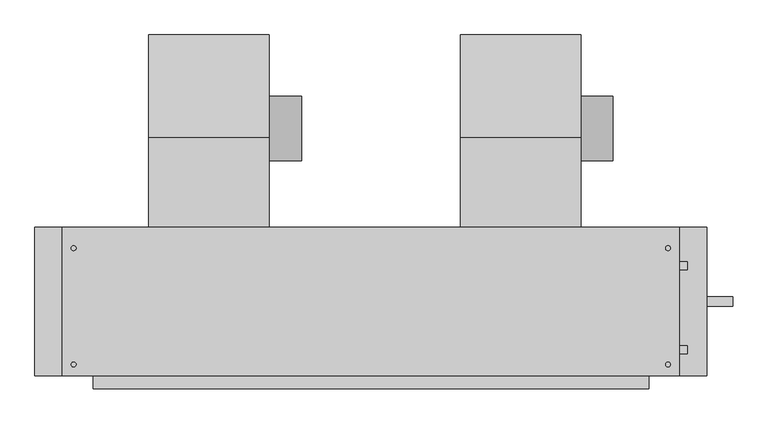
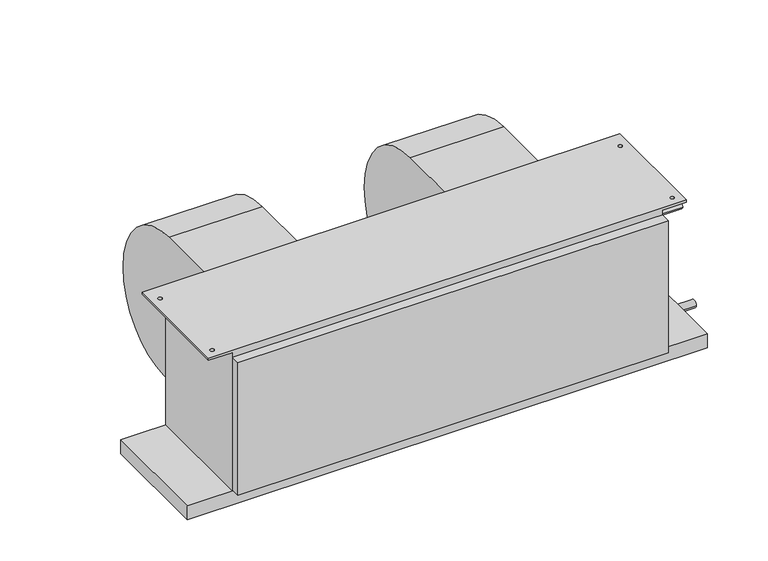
"""IFC4 building model written with IfcOpenShell, lengths in millimetres: proxy geometry, Concealed_High_Capacity_Horizontal_Fan_Coil_Unit_-_42DAA_-_CARRIER_-_2-Pipe_Cool-EHeat_RH_2022 : Size 18 - 277v/60Hz/1Ph - 6 Row 12.0kW."""

import ifcopenshell
import ifcopenshell.guid

model = None  # the IFC model being written
_history = None  # IfcOwnerHistory: only IFC2X3 demands one
_inside = {}  # id of a spatial element -> (the spatial element, [elements in it])
_under = {}  # id of a project, library or spatial element -> (it, [spatial elements below it])
_declared = {}  # id of a project -> (the project, [libraries it declares])
_typed = {}  # id of a type object -> (the type object, [elements of that type])
_made_of = {}  # id of a material, layer set ... -> (it, [elements and type objects made of it])


def new_model(schema):
    """Start an empty IFC model of exactly this schema.

    Asked for "IFC4X3", IfcOpenShell would pick the latest addendum, in which some entities
    have other attributes; the version numbers below select the first issue.
    IFC2X3 requires an IfcOwnerHistory on every rooted entity: one is made here for all.
    """
    global model, _history
    if schema == "IFC4X3":
        model = ifcopenshell.file(schema_version=(4, 3, 0, 0))
    else:
        model = ifcopenshell.file(schema=schema)
    _inside.clear()
    _under.clear()
    _declared.clear()
    _typed.clear()
    _made_of.clear()
    _history = None
    if model.schema == "IFC2X3":
        org = make("IfcOrganization", Name="unknown")
        user = make(
            "IfcPersonAndOrganization",
            ThePerson=make("IfcPerson", FamilyName="unknown"),
            TheOrganization=org,
        )
        app = make(
            "IfcApplication",
            ApplicationDeveloper=org,
            Version="unknown",
            ApplicationFullName="unknown",
            ApplicationIdentifier="unknown",
        )
        _history = make(
            "IfcOwnerHistory",
            OwningUser=user,
            OwningApplication=app,
            ChangeAction="ADDED",
            CreationDate=0,
        )
    return model


def make(cls, **values):
    """One entity of the class cls with the attributes given. An attribute that is None is left unset."""
    return model.create_entity(
        cls, **{name: value for name, value in values.items() if value is not None}
    )


def rooted(cls, **values):
    """An entity with a GlobalId (a new one), such as an element, a storey or a relation."""
    return make(cls, GlobalId=ifcopenshell.guid.new(), OwnerHistory=_history, **values)


def si_unit(unit_type, name, prefix=None):
    """IfcSIUnit, for example si_unit("LENGTHUNIT", "METRE", prefix="MILLI")."""
    return make("IfcSIUnit", UnitType=unit_type, Prefix=prefix, Name=name)


def assignment(units):
    """IfcUnitAssignment: the units of a project."""
    return None if units is None else make("IfcUnitAssignment", Units=units)


def point(xyz):
    """IfcCartesianPoint."""
    return None if xyz is None else make("IfcCartesianPoint", Coordinates=xyz)


def direction(xyz):
    """IfcDirection."""
    return None if xyz is None else make("IfcDirection", DirectionRatios=xyz)


def frame(location, z_axis=None, x_axis=None):
    """IfcAxis2Placement3D, a coordinate frame: its origin and axes. An axis left out is left unset."""
    return make(
        "IfcAxis2Placement3D",
        Location=point(location),
        Axis=direction(z_axis),
        RefDirection=direction(x_axis),
    )


def frame_2d(location, x_axis=None):
    """IfcAxis2Placement2D, a coordinate frame in the plane: its origin and x axis."""
    return make(
        "IfcAxis2Placement2D", Location=point(location), RefDirection=direction(x_axis)
    )


def origin():
    """The frame at (0, 0, 0) with its axes left unset."""
    return frame((0.0, 0.0, 0.0))


def place(relative_to, where):
    """IfcLocalPlacement: puts the frame where relative to a parent placement (None: the world)."""
    return make(
        "IfcLocalPlacement", PlacementRelTo=relative_to, RelativePlacement=where
    )


def context(
    kind, dimensions, precision=None, world=None, true_north=None, identifier=None
):
    """IfcGeometricRepresentationContext, for example the 3D "Model" context."""
    return make(
        "IfcGeometricRepresentationContext",
        ContextIdentifier=identifier,
        ContextType=kind,
        CoordinateSpaceDimension=dimensions,
        Precision=precision,
        WorldCoordinateSystem=world,
        TrueNorth=true_north,
    )


def project(units=None, contexts=None):
    """IfcProject with its units and contexts."""
    return rooted(
        "IfcProject",
        Name="project",
        RepresentationContexts=contexts,
        UnitsInContext=assignment(units),
    )


def spatial(cls, under=None, at=None, **own):
    """A site, building, storey or space (cls), placed at a placement, below another one or the project."""
    s = rooted(cls, ObjectPlacement=at, **own)
    if under is not None:
        _under.setdefault(under.id(), (under, []))[1].append(s)
    return s


def polyline(points):
    """IfcPolyline through the points."""
    return make("IfcPolyline", Points=[point(p) for p in points])


def circle_curve(where, radius):
    """IfcCircle in the frame where."""
    return make("IfcCircle", Position=where, Radius=radius)


def trimmed(basis, trim1, trim2, sense, master):
    """IfcTrimmedCurve: the piece of a basis curve between two trims."""
    return make(
        "IfcTrimmedCurve",
        BasisCurve=basis,
        Trim1=trim1,
        Trim2=trim2,
        SenseAgreement=sense,
        MasterRepresentation=master,
    )


def segment(curve, same_sense, transition):
    """IfcCompositeCurveSegment."""
    return make(
        "IfcCompositeCurveSegment",
        Transition=transition,
        SameSense=same_sense,
        ParentCurve=curve,
    )


def composite_curve(segments, self_intersect=None):
    """IfcCompositeCurve: segments joined end to end."""
    return make("IfcCompositeCurve", Segments=segments, SelfIntersect=self_intersect)


def outline(outer, holes=None, kind="AREA"):
    """IfcArbitraryClosedProfileDef: a profile drawn as a closed curve; with holes, ...WithVoids."""
    if holes is None:
        return make("IfcArbitraryClosedProfileDef", ProfileType=kind, OuterCurve=outer)
    return make(
        "IfcArbitraryProfileDefWithVoids",
        ProfileType=kind,
        OuterCurve=outer,
        InnerCurves=holes,
    )


def extrude(swept, where, along, depth):
    """IfcExtrudedAreaSolid: the profile swept, set in the frame where, extruded along a direction by depth."""
    return make(
        "IfcExtrudedAreaSolid",
        SweptArea=swept,
        Position=where,
        ExtrudedDirection=direction(along),
        Depth=depth,
    )


def shape(context_of_items, identifier, shape_type, items):
    """IfcShapeRepresentation: the items that make up one representation, for example the "Body"."""
    return make(
        "IfcShapeRepresentation",
        ContextOfItems=context_of_items,
        RepresentationIdentifier=identifier,
        RepresentationType=shape_type,
        Items=items,
    )


def source(mapping_origin, context_of_items, identifier, shape_type, items):
    """IfcRepresentationMap: a shape defined once, which mapped items show again and again."""
    return make(
        "IfcRepresentationMap",
        MappingOrigin=mapping_origin,
        MappedRepresentation=shape(context_of_items, identifier, shape_type, items),
    )


def transform(
    local_origin,
    x_axis=None,
    y_axis=None,
    z_axis=None,
    scale=None,
    scale2=None,
    scale3=None,
    uniform=True,
):
    """IfcCartesianTransformationOperator3D, or its non-uniform kind. x_axis, y_axis, z_axis: its Axis1, 2, 3."""
    if uniform:
        return make(
            "IfcCartesianTransformationOperator3D",
            Axis1=direction(x_axis),
            Axis2=direction(y_axis),
            LocalOrigin=point(local_origin),
            Scale=scale,
            Axis3=direction(z_axis),
        )
    return make(
        "IfcCartesianTransformationOperator3DnonUniform",
        Axis1=direction(x_axis),
        Axis2=direction(y_axis),
        LocalOrigin=point(local_origin),
        Scale=scale,
        Axis3=direction(z_axis),
        Scale2=scale2,
        Scale3=scale3,
    )


def mapped(mapping_source, mapping_target):
    """IfcMappedItem: shows the shape of a source again, moved by a transform."""
    return make(
        "IfcMappedItem", MappingSource=mapping_source, MappingTarget=mapping_target
    )


def made_of(thing, what):
    """Note that an element or type object is made of a material, layer set ...; save() writes the relation."""
    if what is not None:
        _made_of.setdefault(what.id(), (what, []))[1].append(thing)
    return thing


def element(
    cls,
    number,
    at=None,
    inside=None,
    cuts=None,
    type_object=None,
    material=None,
    context=None,
    identifier="Body",
    shape_type=None,
    held_by="IfcProductDefinitionShape",
    body=None,
    shapes=None,
    **own,
):
    """One element of the class cls, such as IfcWall. Its Tag is "e" and its number.

    at: its placement. inside: the storey or other place that contains it. cuts: it is an
    opening in that element (IfcRelVoidsElement). A single representation is given by context,
    identifier, shape_type and body (its items); several are given by shapes. held_by: the class
    of the entity that holds the representations. save() writes the other relations.
    """
    e = rooted(cls, Tag="e%d" % number, ObjectPlacement=at, **own)
    if body is not None:
        shapes = [shape(context, identifier, shape_type, body)]
    if shapes is not None:
        e.Representation = make(held_by, Representations=shapes)
    if inside is not None:
        _inside.setdefault(inside.id(), (inside, []))[1].append(e)
    if cuts is not None:
        rooted(
            "IfcRelVoidsElement", RelatingBuildingElement=cuts, RelatedOpeningElement=e
        )
    if type_object is not None:
        _typed.setdefault(type_object.id(), (type_object, []))[1].append(e)
    return made_of(e, material)


def aggregate(whole, parts):
    """IfcRelAggregates: a whole, such as a stair, and the parts it consists of."""
    return rooted("IfcRelAggregates", RelatingObject=whole, RelatedObjects=parts)


def save(model, path):
    """Write the relations noted so far, then the file.

    IfcRelAggregates (storeys below a building ...), IfcRelContainedInSpatialStructure (elements
    in a storey), IfcRelDefinesByType, IfcRelAssociatesMaterial and IfcRelDeclares: one each for
    every whole, place, type object, material and project.
    """
    for whole, parts in _under.values():
        aggregate(whole, parts)
    for where, things in _inside.values():
        rooted(
            "IfcRelContainedInSpatialStructure",
            RelatedElements=things,
            RelatingStructure=where,
        )
    for kind, things in _typed.values():
        rooted("IfcRelDefinesByType", RelatedObjects=things, RelatingType=kind)
    for what, things in _made_of.values():
        rooted("IfcRelAssociatesMaterial", RelatedObjects=things, RelatingMaterial=what)
    for by, libraries in _declared.values():
        rooted("IfcRelDeclares", RelatingContext=by, RelatedDefinitions=libraries)
    model.write(path)


def plane_surface(at):
    """IfcPlane: the flat surface through the origin of the frame at, square to its z axis."""
    return make("IfcPlane", Position=at)


def cylinder_surface(at, radius):
    """IfcCylindricalSurface: all points at the distance radius from the z axis of the frame at."""
    return make("IfcCylindricalSurface", Position=at, Radius=radius)


def revolved_surface(curve, axis_point, axis_direction):
    """IfcSurfaceOfRevolution: the curve turned about the line through axis_point along axis_direction."""
    return make(
        "IfcSurfaceOfRevolution",
        SweptCurve=make("IfcArbitraryOpenProfileDef", ProfileType="CURVE", Curve=curve),
        AxisPosition=make("IfcAxis1Placement", Location=point(axis_point), Axis=direction(axis_direction)),
    )


def advanced_brep(points, edges, surfaces, faces):
    """IfcAdvancedBrep: a solid bounded by faces that lie on surfaces and meet in shared edges.

    An edge is (start, end): straight between two places in points (the first is 0);
    or (start, end, curve); or (start, end, curve, False) where it runs against its curve.
    A face is (place in surfaces, loops), or (place, loops, False) where it looks against
    its surface's normal. A loop lists edges by number (the first is 1), with a minus sign
    where the edge is run from its end to its start. The first loop is the outer one.
    """
    corners = [point(p) for p in points]
    vertices = [make("IfcVertexPoint", VertexGeometry=c) for c in corners]
    made = []
    for start, end, *more in edges:
        made.append(
            make(
                "IfcEdgeCurve",
                EdgeStart=vertices[start],
                EdgeEnd=vertices[end],
                EdgeGeometry=more[0] if more else make("IfcPolyline", Points=[corners[start], corners[end]]),
                SameSense=more[1] if len(more) > 1 else True,
            )
        )
    hull = []
    for where, loops, *sense in faces:
        bounds = []
        for j, loop in enumerate(loops):
            ring = [make("IfcOrientedEdge", EdgeElement=made[abs(k) - 1], Orientation=k > 0) for k in loop]
            bounds.append(
                make(
                    "IfcFaceOuterBound" if j == 0 else "IfcFaceBound",
                    Bound=make("IfcEdgeLoop", EdgeList=ring),
                    Orientation=True,
                )
            )
        hull.append(make("IfcAdvancedFace", Bounds=bounds, FaceSurface=surfaces[where], SameSense=sense[0] if sense else True))
    return make("IfcAdvancedBrep", Outer=make("IfcClosedShell", CfsFaces=hull))


def mechanical_equipment_83f86b39(model_context):
    return source(origin(), model_context, "Body", "SolidModel", [
        extrude(outline(composite_curve([segment(trimmed(circle_curve(frame_2d((102.0007598, -206.8897468)), 63.5), [point((165.5007598, -206.8897468))], [point((38.5007598, -206.8897468))], False, "CARTESIAN"), True, "CONTINUOUS"), segment(trimmed(circle_curve(frame_2d((102.0007598, -206.8897468)), 63.5), [point((38.5007598, -206.8897468))], [point((165.5007598, -206.8897468))], False, "CARTESIAN"), True, "CONTINUOUS")], self_intersect=False)), frame((-47.625, 0.0, 0.0), z_axis=(1.0, 0.0, 0.0), x_axis=(0.0, 1.0, 0.0)), (0.0, 0.0, 1.0), 63.5),
        advanced_brep(
        [(-284.099, 285.5155957, -222.029602), (-284.099, 104.6226, -403.64664), (-284.099, -50.9016, -277.10638), (-284.099, -92.075, -277.10638), (-284.099, -92.075, -19.05), (-284.099, 83.0080093, -19.05), (-47.625, 285.5155957, -222.029602), (-47.625, 83.0080093, -19.05), (-47.625, -92.075, -19.05), (-47.625, -92.075, -277.10638), (-47.625, -50.9016, -277.10638), (-47.625, 104.622599, -403.6457839)],
        [
            (0, 1, circle_curve(frame((-284.099, 104.44226, -222.57258), z_axis=(-1.0, 0.0, 0.0), x_axis=(0.0, -1.0, 0.0)), 181.0741498)),
            (1, 2, circle_curve(frame((-284.099, 104.44226, -245.02364), z_axis=(-1.0, 0.0, 0.0), x_axis=(0.0, -1.0, 0.0)), 158.6222464)),
            (2, 3),
            (3, 4),
            (4, 5),
            (5, 0, circle_curve(frame((-284.099, 81.9912, -222.57258), z_axis=(-1.0, 0.0, 0.0), x_axis=(0.0, -1.0, 0.0)), 203.52512)),
            (6, 7, circle_curve(frame((-47.625, 81.9912, -222.57258), z_axis=(1.0, 0.0, 0.0), x_axis=(0.0, -1.0, 0.0)), 203.52512)),
            (7, 8),
            (8, 9),
            (9, 10),
            (10, 11, circle_curve(frame((-47.625, 104.44226, -245.02364), z_axis=(1.0, 0.0, 0.0), x_axis=(0.0, -1.0, 0.0)), 158.6222464)),
            (11, 6, circle_curve(frame((-47.625, 104.44226, -222.57258), z_axis=(1.0, 0.0, 0.0), x_axis=(0.0, -1.0, 0.0)), 181.0741498)),
            (0, 6),
            (11, 1),
            (10, 2),
            (9, 3),
            (8, 4),
            (7, 5),
        ],
        [
            plane_surface(frame((-284.099, -76.6318898, -222.57258), z_axis=(-1.0, 0.0, 0.0), x_axis=(0.0, 0.0, 1.0))),
            plane_surface(frame((-47.625, -76.6318898, -222.57258), z_axis=(1.0, 0.0, 0.0), x_axis=(0.0, 0.0, -1.0))),
            cylinder_surface(frame((-47.625, 104.44226, -222.57258), z_axis=(-1.0, 0.0, 0.0), x_axis=(0.0, -1.0, 0.0)), 181.0741498),
            cylinder_surface(frame((-47.625, 104.44226, -245.02364), z_axis=(-1.0, 0.0, 0.0), x_axis=(0.0, -1.0, 0.0)), 158.6222464),
            plane_surface(frame((-284.099, -50.9016, -277.10638), z_axis=(0.0, 0.0, -1.0), x_axis=(1.0, 0.0, 0.0))),
            plane_surface(frame((-284.099, -92.075, -277.10638), z_axis=(0.0, -1.0, 0.0), x_axis=(1.0, 0.0, 0.0))),
            plane_surface(frame((-284.099, -92.075, -19.05), z_axis=(0.0, 0.0, 1.0), x_axis=(1.0, 0.0, 0.0))),
            cylinder_surface(frame((-47.625, 81.9912, -222.57258), z_axis=(-1.0, 0.0, 0.0), x_axis=(0.0, -1.0, 0.0)), 203.52512),
        ],
        [
            (0, [[1, 2, 3, 4, 5, 6]]),
            (1, [[7, 8, 9, 10, 11, 12]]),
            (2, [[-1, 13, -12, 14]]),
            (3, [[-2, -14, -11, 15]]),
            (4, [[-3, -15, -10, 16]]),
            (5, [[-4, -16, -9, 17]]),
            (6, [[-5, -17, -8, 18]]),
            (7, [[-6, -18, -7, -13]]),
        ],
    ),
        extrude(outline(composite_curve([segment(trimmed(circle_curve(frame_2d((102.0007598, -206.8897468)), 63.5), [point((165.5007598, -206.8897468))], [point((38.5007598, -206.8897468))], False, "CARTESIAN"), True, "CONTINUOUS"), segment(trimmed(circle_curve(frame_2d((102.0007598, -206.8897468)), 63.5), [point((38.5007598, -206.8897468))], [point((165.5007598, -206.8897468))], False, "CARTESIAN"), True, "CONTINUOUS")], self_intersect=False)), frame((565.15, 0.0, 0.0), z_axis=(1.0, 0.0, 0.0), x_axis=(0.0, 1.0, 0.0)), (0.0, 0.0, 1.0), 63.5),
        advanced_brep(
        [(328.676, 285.5155957, -222.029602), (328.676, 104.6226, -403.64664), (328.676, -50.9016, -277.10638), (328.676, -92.075, -277.10638), (328.676, -92.075, -19.05), (328.676, 83.0080093, -19.05), (565.15, 285.5155957, -222.029602), (565.15, 83.0080093, -19.05), (565.15, -92.075, -19.05), (565.15, -92.075, -277.10638), (565.15, -50.9016, -277.10638), (565.15, 104.622599, -403.6457839)],
        [
            (0, 1, circle_curve(frame((328.676, 104.44226, -222.57258), z_axis=(-1.0, 0.0, 0.0), x_axis=(0.0, -1.0, 0.0)), 181.0741498)),
            (1, 2, circle_curve(frame((328.676, 104.44226, -245.02364), z_axis=(-1.0, 0.0, 0.0), x_axis=(0.0, -1.0, 0.0)), 158.6222464)),
            (2, 3),
            (3, 4),
            (4, 5),
            (5, 0, circle_curve(frame((328.676, 81.9912, -222.57258), z_axis=(-1.0, 0.0, 0.0), x_axis=(0.0, -1.0, 0.0)), 203.52512)),
            (6, 7, circle_curve(frame((565.15, 81.9912, -222.57258), z_axis=(1.0, 0.0, 0.0), x_axis=(0.0, -1.0, 0.0)), 203.52512)),
            (7, 8),
            (8, 9),
            (9, 10),
            (10, 11, circle_curve(frame((565.15, 104.44226, -245.02364), z_axis=(1.0, 0.0, 0.0), x_axis=(0.0, -1.0, 0.0)), 158.6222464)),
            (11, 6, circle_curve(frame((565.15, 104.44226, -222.57258), z_axis=(1.0, 0.0, 0.0), x_axis=(0.0, -1.0, 0.0)), 181.0741498)),
            (0, 6),
            (11, 1),
            (10, 2),
            (9, 3),
            (8, 4),
            (7, 5),
        ],
        [
            plane_surface(frame((328.676, -76.6318898, -222.57258), z_axis=(-1.0, 0.0, 0.0), x_axis=(0.0, 0.0, 1.0))),
            plane_surface(frame((565.15, -76.6318898, -222.57258), z_axis=(1.0, 0.0, 0.0), x_axis=(0.0, 0.0, -1.0))),
            cylinder_surface(frame((565.15, 104.44226, -222.57258), z_axis=(-1.0, 0.0, 0.0), x_axis=(0.0, -1.0, 0.0)), 181.0741498),
            cylinder_surface(frame((565.15, 104.44226, -245.02364), z_axis=(-1.0, 0.0, 0.0), x_axis=(0.0, -1.0, 0.0)), 158.6222464),
            plane_surface(frame((328.676, -50.9016, -277.10638), z_axis=(0.0, 0.0, -1.0), x_axis=(1.0, 0.0, 0.0))),
            plane_surface(frame((328.676, -92.075, -277.10638), z_axis=(0.0, -1.0, 0.0), x_axis=(1.0, 0.0, 0.0))),
            plane_surface(frame((328.676, -92.075, -19.05), z_axis=(0.0, 0.0, 1.0), x_axis=(1.0, 0.0, 0.0))),
            cylinder_surface(frame((565.15, 81.9912, -222.57258), z_axis=(-1.0, 0.0, 0.0), x_axis=(0.0, -1.0, 0.0)), 203.52512),
        ],
        [
            (0, [[1, 2, 3, 4, 5, 6]]),
            (1, [[7, 8, 9, 10, 11, 12]]),
            (2, [[-1, 13, -12, 14]]),
            (3, [[-2, -14, -11, 15]]),
            (4, [[-3, -15, -10, 16]]),
            (5, [[-4, -16, -9, 17]]),
            (6, [[-5, -17, -8, 18]]),
            (7, [[-6, -18, -7, -13]]),
        ],
    ),
        advanced_brep(
        [(698.5, -92.075, -377.825), (698.5, -384.175, -377.825), (-393.7, -384.175, -377.825), (-393.7, -92.075, -377.825), (-393.7, -384.175, -6.35), (-393.7, -92.075, -6.35), (698.5, -92.075, -6.35), (698.5, -384.175, -6.35), (758.825, -92.075, -6.35), (758.825, -384.175, -6.35), (731.8375, -133.35, -6.35), (741.3625, -133.35, -6.35), (731.8375, -361.95, -6.35), (741.3625, -361.95, -6.35), (-454.025, -92.075, -6.35), (-454.025, -384.175, -6.35), (-436.5625, -133.35, -6.35), (-427.0375, -133.35, -6.35), (-436.5625, -361.95, -6.35), (-427.0375, -361.95, -6.35), (758.825, -384.175, 0.0), (758.825, -92.075, 0.0), (-454.025, -92.075, 0.0), (-454.025, -384.175, 0.0), (-427.0375, -133.35, 0.0), (-436.5625, -133.35, 0.0), (-427.0375, -361.95, 0.0), (-436.5625, -361.95, 0.0), (741.3625, -133.35, 0.0), (731.8375, -133.35, 0.0), (741.3625, -361.95, 0.0), (731.8375, -361.95, 0.0)],
        [
            (0, 1),
            (1, 2),
            (2, 3),
            (3, 0),
            (2, 4),
            (4, 5),
            (5, 3),
            (0, 6),
            (6, 7),
            (7, 1),
            (8, 9),
            (9, 7),
            (6, 8),
            (10, 11, circle_curve(frame((736.6, -133.35, -6.35), z_axis=(0.0, 0.0, 1.0), x_axis=(1.0, 0.0, 0.0)), 4.7625)),
            (11, 10, circle_curve(frame((736.6, -133.35, -6.35), z_axis=(0.0, 0.0, 1.0), x_axis=(1.0, 0.0, 0.0)), 4.7625)),
            (12, 13, circle_curve(frame((736.6, -361.95, -6.35), z_axis=(0.0, 0.0, 1.0), x_axis=(1.0, 0.0, 0.0)), 4.7625)),
            (13, 12, circle_curve(frame((736.6, -361.95, -6.35), z_axis=(0.0, 0.0, 1.0), x_axis=(1.0, 0.0, 0.0)), 4.7625)),
            (14, 5),
            (4, 15),
            (15, 14),
            (16, 17, circle_curve(frame((-431.8, -133.35, -6.35), z_axis=(0.0, 0.0, 1.0), x_axis=(1.0, 0.0, 0.0)), 4.7625)),
            (17, 16, circle_curve(frame((-431.8, -133.35, -6.35), z_axis=(0.0, 0.0, 1.0), x_axis=(1.0, 0.0, 0.0)), 4.7625)),
            (18, 19, circle_curve(frame((-431.8, -361.95, -6.35), z_axis=(0.0, 0.0, 1.0), x_axis=(1.0, 0.0, 0.0)), 4.7625)),
            (19, 18, circle_curve(frame((-431.8, -361.95, -6.35), z_axis=(0.0, 0.0, 1.0), x_axis=(1.0, 0.0, 0.0)), 4.7625)),
            (20, 21),
            (21, 22),
            (22, 23),
            (23, 20),
            (24, 25, circle_curve(frame((-431.8, -133.35, 0.0), z_axis=(0.0, 0.0, -1.0), x_axis=(1.0, 0.0, 0.0)), 4.7625)),
            (25, 24, circle_curve(frame((-431.8, -133.35, 0.0), z_axis=(0.0, 0.0, -1.0), x_axis=(1.0, 0.0, 0.0)), 4.7625)),
            (26, 27, circle_curve(frame((-431.8, -361.95, 0.0), z_axis=(0.0, 0.0, -1.0), x_axis=(1.0, 0.0, 0.0)), 4.7625)),
            (27, 26, circle_curve(frame((-431.8, -361.95, 0.0), z_axis=(0.0, 0.0, -1.0), x_axis=(1.0, 0.0, 0.0)), 4.7625)),
            (28, 29, circle_curve(frame((736.6, -133.35, 0.0), z_axis=(0.0, 0.0, -1.0), x_axis=(1.0, 0.0, 0.0)), 4.7625)),
            (29, 28, circle_curve(frame((736.6, -133.35, 0.0), z_axis=(0.0, 0.0, -1.0), x_axis=(1.0, 0.0, 0.0)), 4.7625)),
            (30, 31, circle_curve(frame((736.6, -361.95, 0.0), z_axis=(0.0, 0.0, -1.0), x_axis=(1.0, 0.0, 0.0)), 4.7625)),
            (31, 30, circle_curve(frame((736.6, -361.95, 0.0), z_axis=(0.0, 0.0, -1.0), x_axis=(1.0, 0.0, 0.0)), 4.7625)),
            (14, 22),
            (21, 8),
            (9, 20),
            (23, 15),
            (24, 17),
            (16, 25),
            (26, 19),
            (18, 27),
            (28, 11),
            (10, 29),
            (30, 13),
            (12, 31),
        ],
        [
            plane_surface(frame((-393.7, -92.075, -377.825), z_axis=(0.0, 0.0, -1.0), x_axis=(1.0, 0.0, 0.0))),
            plane_surface(frame((-393.7, -92.075, 0.0), z_axis=(-1.0, 0.0, 0.0), x_axis=(0.0, 0.0, -1.0))),
            plane_surface(frame((698.5, -384.175, 0.0), z_axis=(1.0, 0.0, 0.0), x_axis=(0.0, 0.0, -1.0))),
            plane_surface(frame((698.5, -92.075, -6.35), z_axis=(0.0, 0.0, -1.0), x_axis=(1.0, 0.0, 0.0))),
            plane_surface(frame((698.5, -92.075, 0.0), z_axis=(0.0, 0.0, 1.0), x_axis=(-1.0, 0.0, 0.0))),
            plane_surface(frame((758.825, -92.075, 0.0), z_axis=(0.0, 1.0, 0.0), x_axis=(0.0, 0.0, -1.0))),
            plane_surface(frame((698.5, -384.175, 0.0), z_axis=(0.0, -1.0, 0.0), x_axis=(0.0, 0.0, -1.0))),
            plane_surface(frame((758.825, -384.175, 0.0), z_axis=(1.0, 0.0, 0.0), x_axis=(0.0, 0.0, -1.0))),
            plane_surface(frame((-454.025, -92.075, 0.0), z_axis=(-1.0, 0.0, 0.0), x_axis=(0.0, 0.0, -1.0))),
            revolved_surface(polyline([(-427.0375, -133.35, 0.0), (-427.0375, -133.35, -6.35)]), (-431.8, -133.35, -6.35), (0.0, 0.0, 1.0)),
            revolved_surface(polyline([(-427.0375, -361.95, 0.0), (-427.0375, -361.95, -6.35)]), (-431.8, -361.95, 0.0), (0.0, 0.0, 1.0)),
            revolved_surface(polyline([(741.3625000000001, -133.35, 0.0), (741.3625000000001, -133.35, -6.35)]), (736.6, -133.35, 0.0), (0.0, 0.0, 1.0)),
            revolved_surface(polyline([(741.3625000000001, -361.95, 0.0), (741.3625000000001, -361.95, -6.35)]), (736.6, -361.95, 0.0), (0.0, 0.0, 1.0)),
        ],
        [
            (0, [[1, 2, 3, 4]]),
            (1, [[-3, 5, 6, 7]]),
            (2, [[-1, 8, 9, 10]]),
            (3, [[11, 12, -9, 13], [14, 15], [16, 17]]),
            (3, [[18, -6, 19, 20], [21, 22], [23, 24]]),
            (4, [[25, 26, 27, 28], [29, 30], [31, 32], [33, 34], [35, 36]]),
            (5, [[-13, -8, -4, -7, -18, 37, -26, 38]]),
            (6, [[-12, 39, -28, 40, -19, -5, -2, -10]]),
            (7, [[-11, -38, -25, -39]]),
            (8, [[-20, -40, -27, -37]]),
            (9, [[41, -21, 42, -29]]),
            (9, [[-41, -30, -42, -22]]),
            (10, [[43, -23, 44, -31]]),
            (10, [[-43, -32, -44, -24]]),
            (11, [[45, -14, 46, -33]]),
            (11, [[-45, -34, -46, -15]]),
            (12, [[47, -16, 48, -35]]),
            (12, [[-47, -36, -48, -17]]),
        ],
    ),
        extrude(outline(composite_curve([segment(trimmed(circle_curve(frame_2d((-238.125, -403.225)), 9.525), [point((-228.6, -403.225))], [point((-247.65, -403.225))], False, "CARTESIAN"), True, "CONTINUOUS"), segment(trimmed(circle_curve(frame_2d((-238.125, -403.225)), 9.525), [point((-247.65, -403.225))], [point((-228.6, -403.225))], False, "CARTESIAN"), True, "CONTINUOUS")], self_intersect=False)), frame((812.8, 0.0, 0.0), z_axis=(1.0, 0.0, 0.0), x_axis=(0.0, 1.0, 0.0)), (0.0, 0.0, 1.0), 50.8),
        extrude(outline(composite_curve([segment(trimmed(circle_curve(frame_2d((-333.375, -50.8)), 7.9375), [point((-325.4375, -50.8))], [point((-341.3125, -50.8))], False, "CARTESIAN"), True, "CONTINUOUS"), segment(trimmed(circle_curve(frame_2d((-333.375, -50.8)), 7.9375), [point((-341.3125, -50.8))], [point((-325.4375, -50.8))], False, "CARTESIAN"), True, "CONTINUOUS")], self_intersect=False)), frame((698.5, 0.0, 0.0), z_axis=(1.0, 0.0, 0.0), x_axis=(0.0, 1.0, 0.0)), (0.0, 0.0, 1.0), 76.2),
        extrude(outline(composite_curve([segment(trimmed(circle_curve(frame_2d((-168.275, -327.025)), 7.9375), [point((-160.3375, -327.025))], [point((-176.2125, -327.025))], False, "CARTESIAN"), True, "CONTINUOUS"), segment(trimmed(circle_curve(frame_2d((-168.275, -327.025)), 7.9375), [point((-176.2125, -327.025))], [point((-160.3375, -327.025))], False, "CARTESIAN"), True, "CONTINUOUS")], self_intersect=False)), frame((698.5, 0.0, 0.0), z_axis=(1.0, 0.0, 0.0), x_axis=(0.0, 1.0, 0.0)), (0.0, 0.0, 1.0), 76.2),
        extrude(outline(polyline([(698.5, -409.575), (-393.7, -409.575), (-393.7, -384.175), (698.5, -384.175), (698.5, -409.575)])), frame((0.0, 0.0, -374.65), z_axis=(0.0, 0.0, 1.0), x_axis=(1.0, 0.0, 0.0)), (0.0, 0.0, 1.0), 355.6),
        extrude(outline(polyline([(812.8, -92.075), (812.8, -384.175), (-508.0, -384.175), (-508.0, -92.075), (812.8, -92.075)])), frame((0.0, 0.0, -415.925), z_axis=(0.0, 0.0, 1.0), x_axis=(1.0, 0.0, 0.0)), (0.0, 0.0, 1.0), 38.1),
    ])


if __name__ == "__main__":
    model = new_model("IFC4")
    model_context = context("Model", 3, world=origin())
    ifc_project = project(units=[si_unit("LENGTHUNIT", "METRE", prefix="MILLI")], contexts=[model_context])
    site = spatial("IfcSite", under=ifc_project)
    building = spatial("IfcBuilding", under=site)
    placement = place(None, origin())
    mechanical_equipment_shape = mechanical_equipment_83f86b39(model_context)
    element("IfcBuildingElementProxy", 1, Name="Concealed_High_Capacity_Horizontal_Fan_Coil_Unit_-_42DAA_-_CARRIER_-_2-Pipe_Cool-EHeat_RH_2022 : Size 18 - 277v/60Hz/1Ph - 6 Row 12.0kW", ObjectType="Concealed_High_Capacity_Horizontal_Fan_Coil_Unit_-_42DAA_-_CARRIER_-_2-Pipe_Cool-EHeat_RH_2022 : Size 18 - 277v/60Hz/1Ph - 6 Row 12.0kW", at=placement, inside=building, context=model_context, shape_type="MappedRepresentation", body=[
        mapped(mechanical_equipment_shape, transform((0.0, 0.0, 0.0), x_axis=(1.0, 0.0, 0.0), y_axis=(0.0, 1.0, 0.0), z_axis=(0.0, 0.0, 1.0))),
    ])
    save(model, "model.ifc")
